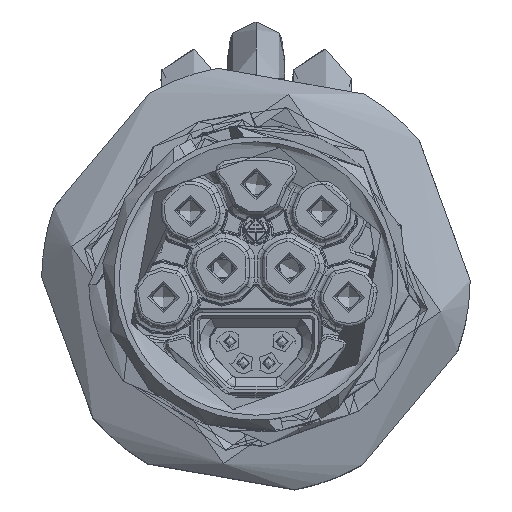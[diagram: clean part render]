
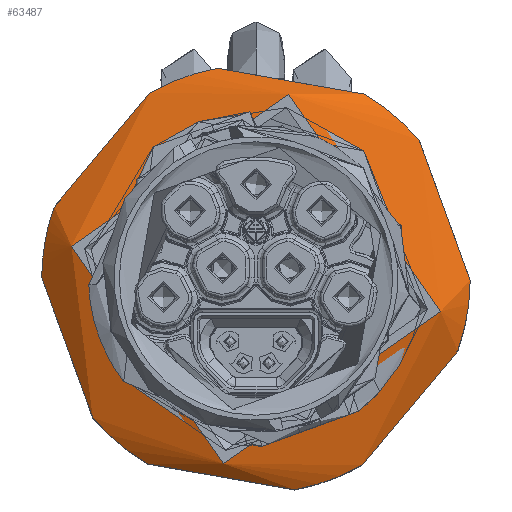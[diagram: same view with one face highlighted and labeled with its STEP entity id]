
A CAD part, top view. The second image highlights one B-rep face of the part: STEP entity #63487.
In plain terms, the highlighted conical face has half-angle 45 degrees and reference radius 15 mm.
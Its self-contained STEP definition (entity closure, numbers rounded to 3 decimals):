
#777=CONICAL_SURFACE('',#68673,15.,0.785);
#2331=(
BOUNDED_CURVE()
B_SPLINE_CURVE(2,(#114799,#114800,#114801),.UNSPECIFIED.,.F.,.F.)
B_SPLINE_CURVE_WITH_KNOTS((3,3),(0.,1.131),.UNSPECIFIED.)
CURVE()
GEOMETRIC_REPRESENTATION_ITEM()
RATIONAL_B_SPLINE_CURVE((1.,1.067,1.))
REPRESENTATION_ITEM('')
);
#2334=(
BOUNDED_CURVE()
B_SPLINE_CURVE(2,(#114846,#114847,#114848),.UNSPECIFIED.,.F.,.F.)
B_SPLINE_CURVE_WITH_KNOTS((3,3),(0.,1.131),.UNSPECIFIED.)
CURVE()
GEOMETRIC_REPRESENTATION_ITEM()
RATIONAL_B_SPLINE_CURVE((1.,1.067,1.))
REPRESENTATION_ITEM('')
);
#2336=(
BOUNDED_CURVE()
B_SPLINE_CURVE(2,(#114877,#114878,#114879),.UNSPECIFIED.,.F.,.F.)
B_SPLINE_CURVE_WITH_KNOTS((3,3),(0.,1.131),.UNSPECIFIED.)
CURVE()
GEOMETRIC_REPRESENTATION_ITEM()
RATIONAL_B_SPLINE_CURVE((1.,1.067,1.))
REPRESENTATION_ITEM('')
);
#2337=(
BOUNDED_CURVE()
B_SPLINE_CURVE(2,(#114884,#114885,#114886),.UNSPECIFIED.,.F.,.F.)
B_SPLINE_CURVE_WITH_KNOTS((3,3),(0.,1.131),.UNSPECIFIED.)
CURVE()
GEOMETRIC_REPRESENTATION_ITEM()
RATIONAL_B_SPLINE_CURVE((1.,1.067,1.))
REPRESENTATION_ITEM('')
);
#2338=(
BOUNDED_CURVE()
B_SPLINE_CURVE(2,(#114895,#114896,#114897),.UNSPECIFIED.,.F.,.F.)
B_SPLINE_CURVE_WITH_KNOTS((3,3),(0.,1.131),.UNSPECIFIED.)
CURVE()
GEOMETRIC_REPRESENTATION_ITEM()
RATIONAL_B_SPLINE_CURVE((1.,1.067,1.))
REPRESENTATION_ITEM('')
);
#2339=(
BOUNDED_CURVE()
B_SPLINE_CURVE(2,(#114901,#114902,#114903),.UNSPECIFIED.,.F.,.F.)
B_SPLINE_CURVE_WITH_KNOTS((3,3),(0.,1.131),.UNSPECIFIED.)
CURVE()
GEOMETRIC_REPRESENTATION_ITEM()
RATIONAL_B_SPLINE_CURVE((1.,1.067,1.))
REPRESENTATION_ITEM('')
);
#9000=FACE_OUTER_BOUND('',#12483,.T.);
#12483=EDGE_LOOP('',(#51095,#51096,#51097,#51098,#51099,#51100,#51101,#51102,
#51103,#51104,#51105,#51106,#51107,#51108,#51109,#51110));
#15739=LINE('',#114890,#20745);
#20745=VECTOR('',#79356,15.);
#26439=CIRCLE('',#68672,16.);
#26440=CIRCLE('',#68674,16.);
#26441=CIRCLE('',#68675,16.);
#26442=CIRCLE('',#68676,16.);
#26443=CIRCLE('',#68677,14.);
#26444=CIRCLE('',#68678,16.);
#26445=CIRCLE('',#68679,16.);
#26446=CIRCLE('',#68680,16.);
#29966=VERTEX_POINT('',#114796);
#29967=VERTEX_POINT('',#114798);
#29977=VERTEX_POINT('',#114843);
#29978=VERTEX_POINT('',#114845);
#29984=VERTEX_POINT('',#114872);
#29985=VERTEX_POINT('',#114876);
#29986=VERTEX_POINT('',#114881);
#29987=VERTEX_POINT('',#114883);
#29988=VERTEX_POINT('',#114887);
#29989=VERTEX_POINT('',#114889);
#29990=VERTEX_POINT('',#114892);
#29991=VERTEX_POINT('',#114894);
#29992=VERTEX_POINT('',#114898);
#29993=VERTEX_POINT('',#114900);
#37505=EDGE_CURVE('',#29966,#29967,#2331,.T.);
#37516=EDGE_CURVE('',#29977,#29978,#2334,.T.);
#37523=EDGE_CURVE('',#29967,#29984,#26439,.T.);
#37525=EDGE_CURVE('',#29984,#29985,#2336,.T.);
#37526=EDGE_CURVE('',#29978,#29966,#26440,.T.);
#37527=EDGE_CURVE('',#29986,#29977,#26441,.T.);
#37528=EDGE_CURVE('',#29987,#29986,#2337,.T.);
#37529=EDGE_CURVE('',#29988,#29987,#26442,.T.);
#37530=EDGE_CURVE('',#29988,#29989,#15739,.T.);
#37531=EDGE_CURVE('',#29989,#29989,#26443,.T.);
#37532=EDGE_CURVE('',#29990,#29988,#26444,.T.);
#37533=EDGE_CURVE('',#29991,#29990,#2338,.T.);
#37534=EDGE_CURVE('',#29992,#29991,#26445,.T.);
#37535=EDGE_CURVE('',#29993,#29992,#2339,.T.);
#37536=EDGE_CURVE('',#29985,#29993,#26446,.T.);
#51095=ORIENTED_EDGE('',*,*,#37525,.F.);
#51096=ORIENTED_EDGE('',*,*,#37523,.F.);
#51097=ORIENTED_EDGE('',*,*,#37505,.F.);
#51098=ORIENTED_EDGE('',*,*,#37526,.F.);
#51099=ORIENTED_EDGE('',*,*,#37516,.F.);
#51100=ORIENTED_EDGE('',*,*,#37527,.F.);
#51101=ORIENTED_EDGE('',*,*,#37528,.F.);
#51102=ORIENTED_EDGE('',*,*,#37529,.F.);
#51103=ORIENTED_EDGE('',*,*,#37530,.T.);
#51104=ORIENTED_EDGE('',*,*,#37531,.F.);
#51105=ORIENTED_EDGE('',*,*,#37530,.F.);
#51106=ORIENTED_EDGE('',*,*,#37532,.F.);
#51107=ORIENTED_EDGE('',*,*,#37533,.F.);
#51108=ORIENTED_EDGE('',*,*,#37534,.F.);
#51109=ORIENTED_EDGE('',*,*,#37535,.F.);
#51110=ORIENTED_EDGE('',*,*,#37536,.F.);
#63487=ADVANCED_FACE('',(#9000),#777,.T.);
#68672=AXIS2_PLACEMENT_3D('',#114873,#79345,#79346);
#68673=AXIS2_PLACEMENT_3D('',#114875,#79348,#79349);
#68674=AXIS2_PLACEMENT_3D('',#114880,#79350,#79351);
#68675=AXIS2_PLACEMENT_3D('',#114882,#79352,#79353);
#68676=AXIS2_PLACEMENT_3D('',#114888,#79354,#79355);
#68677=AXIS2_PLACEMENT_3D('',#114891,#79357,#79358);
#68678=AXIS2_PLACEMENT_3D('',#114893,#79359,#79360);
#68679=AXIS2_PLACEMENT_3D('',#114899,#79361,#79362);
#68680=AXIS2_PLACEMENT_3D('',#114904,#79363,#79364);
#79345=DIRECTION('center_axis',(0.,0.,
-1.));
#79346=DIRECTION('ref_axis',(-0.174,-0.985,0.));
#79348=DIRECTION('center_axis',(0.,0.,
-1.));
#79349=DIRECTION('ref_axis',(0.985,-0.174,0.));
#79350=DIRECTION('center_axis',(0.,0.,
-1.));
#79351=DIRECTION('ref_axis',(-0.174,-0.985,0.));
#79352=DIRECTION('center_axis',(0.,0.,
-1.));
#79353=DIRECTION('ref_axis',(-0.174,-0.985,0.));
#79354=DIRECTION('center_axis',(0.,0.,
-1.));
#79355=DIRECTION('ref_axis',(-0.174,-0.985,0.));
#79356=DIRECTION('',(0.696,-0.123,0.707));
#79357=DIRECTION('center_axis',(0.,0.,
1.));
#79358=DIRECTION('ref_axis',(0.985,-0.174,0.));
#79359=DIRECTION('center_axis',(0.,0.,
-1.));
#79360=DIRECTION('ref_axis',(-0.174,-0.985,0.));
#79361=DIRECTION('center_axis',(0.,0.,
-1.));
#79362=DIRECTION('ref_axis',(-0.174,-0.985,0.));
#79363=DIRECTION('center_axis',(0.,0.,
-1.));
#79364=DIRECTION('ref_axis',(-0.174,-0.985,0.));
#114796=CARTESIAN_POINT('',(12.191,10.362,15.7));
#114798=CARTESIAN_POINT('',(16.,-0.102,15.7));
#114799=CARTESIAN_POINT('Ctrl Pts',(12.191,10.362,15.7));
#114800=CARTESIAN_POINT('Ctrl Pts',(14.095,5.13,17.638));
#114801=CARTESIAN_POINT('Ctrl Pts',(16.,-0.102,
15.7));
#114843=CARTESIAN_POINT('',(-2.878,15.739,15.7));
#114845=CARTESIAN_POINT('',(8.088,13.805,15.7));
#114846=CARTESIAN_POINT('Ctrl Pts',(-2.878,15.739,
15.7));
#114847=CARTESIAN_POINT('Ctrl Pts',(2.605,14.772,17.638));
#114848=CARTESIAN_POINT('Ctrl Pts',(8.088,13.805,15.7));
#114872=CARTESIAN_POINT('',(15.07,-5.377,15.7));
#114873=CARTESIAN_POINT('Origin',(0.,0.,
15.7));
#114875=CARTESIAN_POINT('Origin',(0.,0.,
16.7));
#114876=CARTESIAN_POINT('',(7.912,-13.907,15.7));
#114877=CARTESIAN_POINT('Ctrl Pts',(15.07,-5.377,15.7));
#114878=CARTESIAN_POINT('Ctrl Pts',(11.491,-9.642,
17.638));
#114879=CARTESIAN_POINT('Ctrl Pts',(7.912,-13.907,
15.7));
#114880=CARTESIAN_POINT('Origin',(0.,0.,
15.7));
#114881=CARTESIAN_POINT('',(-7.912,13.907,15.7));
#114882=CARTESIAN_POINT('Origin',(0.,0.,
15.7));
#114883=CARTESIAN_POINT('',(-15.07,5.377,15.7));
#114884=CARTESIAN_POINT('Ctrl Pts',(-15.07,5.377,
15.7));
#114885=CARTESIAN_POINT('Ctrl Pts',(-11.491,9.642,
17.637));
#114886=CARTESIAN_POINT('Ctrl Pts',(-7.912,13.907,
15.7));
#114887=CARTESIAN_POINT('',(-15.757,2.778,15.7));
#114888=CARTESIAN_POINT('Origin',(0.,0.,
15.7));
#114889=CARTESIAN_POINT('',(-13.787,2.431,17.7));
#114890=CARTESIAN_POINT('',(-14.772,2.605,16.7));
#114891=CARTESIAN_POINT('Origin',(0.,0.,
17.7));
#114892=CARTESIAN_POINT('',(-16.,0.102,15.7));
#114893=CARTESIAN_POINT('Origin',(0.,0.,
15.7));
#114894=CARTESIAN_POINT('',(-12.191,-10.362,15.7));
#114895=CARTESIAN_POINT('Ctrl Pts',(-12.191,-10.362,15.7));
#114896=CARTESIAN_POINT('Ctrl Pts',(-14.095,-5.13,
17.637));
#114897=CARTESIAN_POINT('Ctrl Pts',(-16.,0.102,
15.7));
#114898=CARTESIAN_POINT('',(-8.088,-13.805,15.7));
#114899=CARTESIAN_POINT('Origin',(0.,0.,
15.7));
#114900=CARTESIAN_POINT('',(2.878,-15.739,15.7));
#114901=CARTESIAN_POINT('Ctrl Pts',(2.878,-15.739,
15.7));
#114902=CARTESIAN_POINT('Ctrl Pts',(-2.605,-14.772,
17.637));
#114903=CARTESIAN_POINT('Ctrl Pts',(-8.088,-13.805,
15.7));
#114904=CARTESIAN_POINT('Origin',(0.,0.,
15.7));
